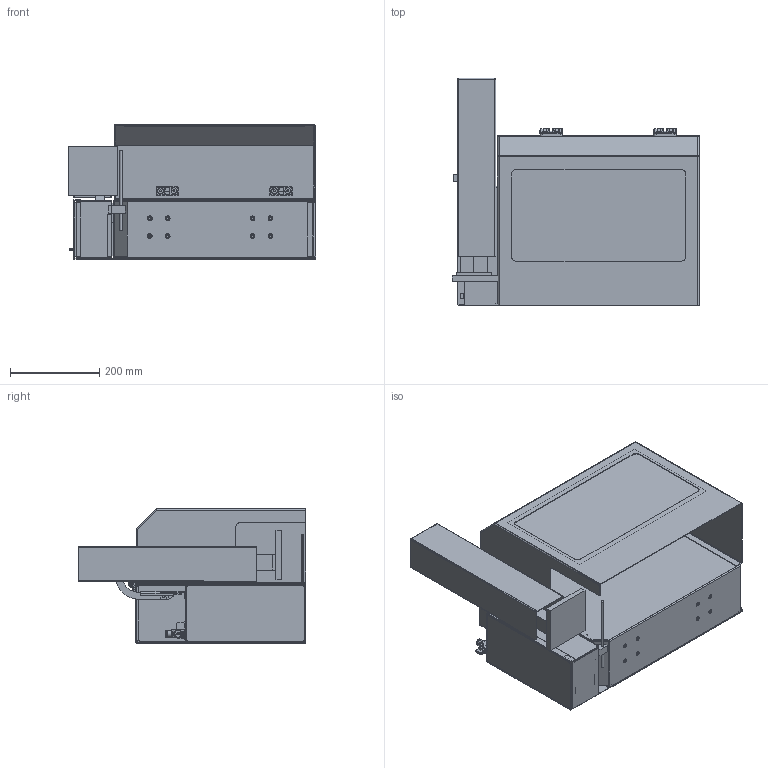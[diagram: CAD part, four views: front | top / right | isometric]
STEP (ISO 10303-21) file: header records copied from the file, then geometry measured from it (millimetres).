
FILE_DESCRIPTION (( 'STEP AP203' ), '1' );
FILE_NAME ('400A(200mm俴最泂梓旋).STEP', '2019-02-11T02:07:57', ( '' ), ( '' ), 'SwSTEP 2.0', 'SolidWorks 2017', '' );
FILE_SCHEMA (( 'CONFIG_CONTROL_DESIGN' ));
Length unit declared in the file: millimetre
Products named in the file (1): 400A(200mm俴最泂梓旋)
Bounding box: 553 x 510 x 300.5 mm (x, y, z)
Volume: 2535036.7 mm3; surface area: 2713092.7 mm2
Topology: 59 solids, 59 shells, 2149 faces, 5478 edges, 3562 vertices
Faces by surface type: plane 1135, cylinder 850, cone 128, bspline 36
Entity records: 66752 total; most frequent: CARTESIAN_POINT 13610, DIRECTION 11211, ORIENTED_EDGE 10932, EDGE_CURVE 5466, AXIS2_PLACEMENT_3D 3955, VERTEX_POINT 3562, LINE 3301, VECTOR 3301
